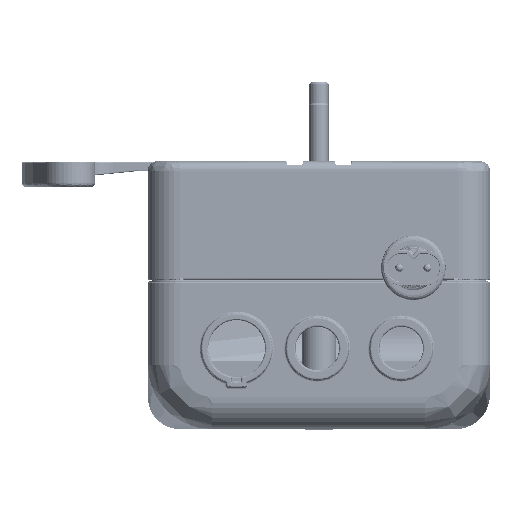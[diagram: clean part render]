
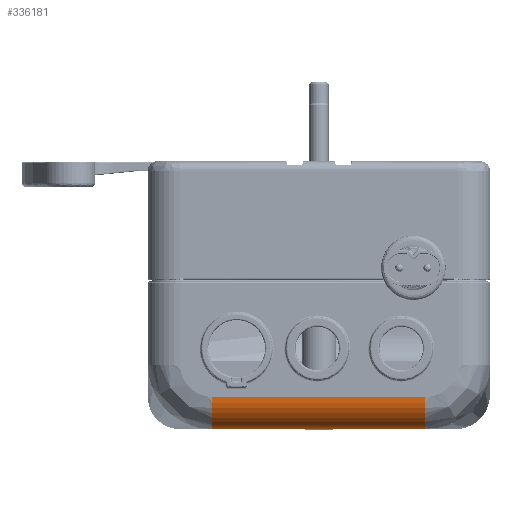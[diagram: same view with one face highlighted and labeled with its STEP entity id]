
A CAD part, front view. The second image highlights one B-rep face of the part: STEP entity #336181.
In plain terms, the highlighted cylindrical face has radius 9.999 mm (diameter 19.999 mm), a partial arc.
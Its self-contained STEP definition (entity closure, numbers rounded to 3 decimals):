
#27339 = EDGE_CURVE ( 'NONE', #248343, #229252, #135255, .T. ) ;
#27833 = DIRECTION ( 'NONE',  ( -1., 0., 0. ) ) ;
#29167 = EDGE_LOOP ( 'NONE', ( #250465, #262612, #187856, #204178 ) ) ;
#34306 = CIRCLE ( 'NONE', #106094, 9.999 ) ;
#44302 = DIRECTION ( 'NONE',  ( 1., 0., 0. ) ) ;
#55467 = FACE_OUTER_BOUND ( 'NONE', #29167, .T. ) ;
#67138 = AXIS2_PLACEMENT_3D ( 'NONE', #127254, #27833, #105038 ) ;
#76122 = DIRECTION ( 'NONE',  ( 0., 0., -1. ) ) ;
#84824 = AXIS2_PLACEMENT_3D ( 'NONE', #121555, #44302, #265135 ) ;
#86137 = VERTEX_POINT ( 'NONE', #208601 ) ;
#105038 = DIRECTION ( 'NONE',  ( 0., 0., 1. ) ) ;
#106094 = AXIS2_PLACEMENT_3D ( 'NONE', #241680, #181010, #76122 ) ;
#121555 = CARTESIAN_POINT ( 'NONE',  ( 33., -123.5, -80. ) ) ;
#127254 = CARTESIAN_POINT ( 'NONE',  ( 33., -123.5, -80. ) ) ;
#135255 = LINE ( 'NONE', #163163, #151218 ) ;
#139550 = EDGE_CURVE ( 'NONE', #229252, #257041, #34306, .T. ) ;
#151218 = VECTOR ( 'NONE', #207343, 1000. ) ;
#160317 = CARTESIAN_POINT ( 'NONE',  ( -33., -123.5, -90. ) ) ;
#163163 = CARTESIAN_POINT ( 'NONE',  ( 0., -123.5, -90. ) ) ;
#167201 = CIRCLE ( 'NONE', #84824, 9.999 ) ;
#169493 = DIRECTION ( 'NONE',  ( 1., 0., 0. ) ) ;
#181010 = DIRECTION ( 'NONE',  ( -1., 0., 0. ) ) ;
#187856 = ORIENTED_EDGE ( 'NONE', *, *, #277723, .T. ) ;
#204178 = ORIENTED_EDGE ( 'NONE', *, *, #228698, .T. ) ;
#207343 = DIRECTION ( 'NONE',  ( -1., 0., 0. ) ) ;
#208601 = CARTESIAN_POINT ( 'NONE',  ( 33., -133.5, -80. ) ) ;
#226723 = CYLINDRICAL_SURFACE ( 'NONE', #67138, 9.999 ) ;
#228698 = EDGE_CURVE ( 'NONE', #86137, #248343, #167201, .T. ) ;
#229252 = VERTEX_POINT ( 'NONE', #160317 ) ;
#241680 = CARTESIAN_POINT ( 'NONE',  ( -33., -123.5, -80. ) ) ;
#248343 = VERTEX_POINT ( 'NONE', #252697 ) ;
#250465 = ORIENTED_EDGE ( 'NONE', *, *, #27339, .T. ) ;
#252697 = CARTESIAN_POINT ( 'NONE',  ( 33., -123.5, -90. ) ) ;
#257041 = VERTEX_POINT ( 'NONE', #338320 ) ;
#262612 = ORIENTED_EDGE ( 'NONE', *, *, #139550, .T. ) ;
#265135 = DIRECTION ( 'NONE',  ( 0., 0., -1. ) ) ;
#277723 = EDGE_CURVE ( 'NONE', #257041, #86137, #296327, .T. ) ;
#296327 = LINE ( 'NONE', #324032, #302389 ) ;
#302389 = VECTOR ( 'NONE', #169493, 1000. ) ;
#324032 = CARTESIAN_POINT ( 'NONE',  ( 0., -133.5, -80. ) ) ;
#336181 = ADVANCED_FACE ( 'NONE', ( #55467 ), #226723, .F. ) ;
#338320 = CARTESIAN_POINT ( 'NONE',  ( -33., -133.5, -80. ) ) ;
